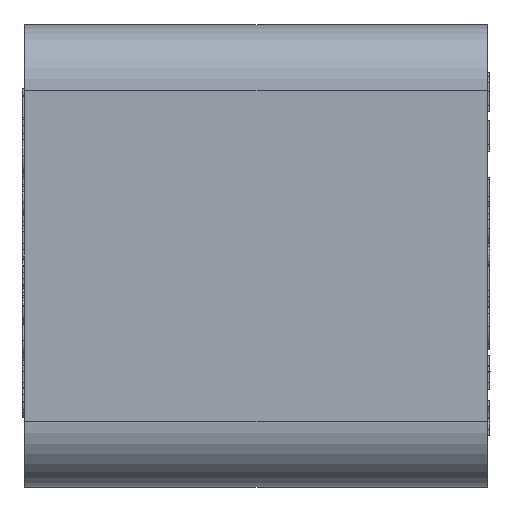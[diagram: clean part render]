
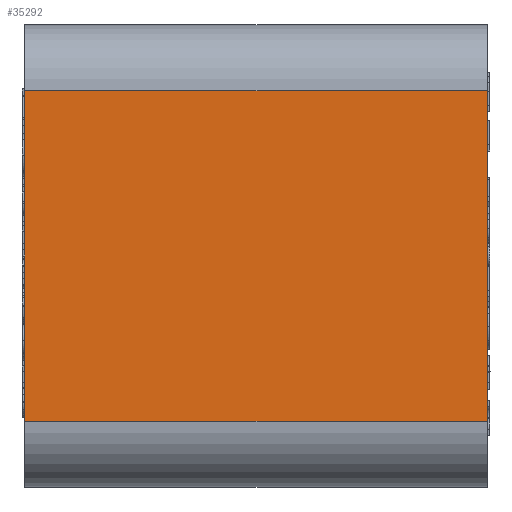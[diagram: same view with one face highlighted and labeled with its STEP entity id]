
A CAD part, left-side view. The second image highlights one B-rep face of the part: STEP entity #35292.
In plain terms, the highlighted planar face has unit normal (-1, 0, 0).
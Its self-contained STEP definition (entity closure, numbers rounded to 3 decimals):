
#534 = DIRECTION ( 'NONE',  ( 1., 0., 0. ) ) ;
#1511 = FACE_OUTER_BOUND ( 'NONE', #36111, .T. ) ;
#2005 = DIRECTION ( 'NONE',  ( 0., 1., 0. ) ) ;
#3853 = CARTESIAN_POINT ( 'NONE',  ( -110., 17.5, 17.5 ) ) ;
#5049 = CARTESIAN_POINT ( 'NONE',  ( -110., 17.5, 17.5 ) ) ;
#5324 = CARTESIAN_POINT ( 'NONE',  ( -110., -17.5, 17.5 ) ) ;
#6766 = DIRECTION ( 'NONE',  ( 0., 0., -1. ) ) ;
#7177 = CARTESIAN_POINT ( 'NONE',  ( -110., -17.5, 12.5 ) ) ;
#7608 = CARTESIAN_POINT ( 'NONE',  ( -110., 17.5, 12.5 ) ) ;
#8426 = LINE ( 'NONE', #5324, #20835 ) ;
#9447 = EDGE_CURVE ( 'NONE', #33394, #19765, #13878, .T. ) ;
#11314 = EDGE_CURVE ( 'NONE', #19765, #28754, #17419, .T. ) ;
#12764 = DIRECTION ( 'NONE',  ( 0., -1., 0. ) ) ;
#13204 = ORIENTED_EDGE ( 'NONE', *, *, #18046, .F. ) ;
#13878 = LINE ( 'NONE', #7608, #14332 ) ;
#14332 = VECTOR ( 'NONE', #2005, 1000. ) ;
#14410 = DIRECTION ( 'NONE',  ( 0., 0., -1. ) ) ;
#17419 = LINE ( 'NONE', #5049, #25145 ) ;
#18046 = EDGE_CURVE ( 'NONE', #33394, #37889, #8426, .T. ) ;
#19765 = VERTEX_POINT ( 'NONE', #23226 ) ;
#20835 = VECTOR ( 'NONE', #14410, 1000. ) ;
#21703 = AXIS2_PLACEMENT_3D ( 'NONE', #3853, #534, #6766 ) ;
#22884 = ORIENTED_EDGE ( 'NONE', *, *, #11314, .T. ) ;
#23226 = CARTESIAN_POINT ( 'NONE',  ( -110., 17.5, 12.5 ) ) ;
#23254 = PLANE ( 'NONE',  #21703 ) ;
#25145 = VECTOR ( 'NONE', #25462, 1000. ) ;
#25462 = DIRECTION ( 'NONE',  ( 0., 0., -1. ) ) ;
#26716 = CARTESIAN_POINT ( 'NONE',  ( -110., -17.5, -12.5 ) ) ;
#27326 = CARTESIAN_POINT ( 'NONE',  ( -110., 17.5, -12.5 ) ) ;
#27471 = EDGE_CURVE ( 'NONE', #28754, #37889, #30360, .T. ) ;
#28754 = VERTEX_POINT ( 'NONE', #33171 ) ;
#30360 = LINE ( 'NONE', #27326, #36306 ) ;
#32641 = ORIENTED_EDGE ( 'NONE', *, *, #9447, .T. ) ;
#33171 = CARTESIAN_POINT ( 'NONE',  ( -110., 17.5, -12.5 ) ) ;
#33394 = VERTEX_POINT ( 'NONE', #7177 ) ;
#35292 = ADVANCED_FACE ( 'NONE', ( #1511 ), #23254, .F. ) ;
#36111 = EDGE_LOOP ( 'NONE', ( #22884, #36189, #13204, #32641 ) ) ;
#36189 = ORIENTED_EDGE ( 'NONE', *, *, #27471, .T. ) ;
#36306 = VECTOR ( 'NONE', #12764, 1000. ) ;
#37889 = VERTEX_POINT ( 'NONE', #26716 ) ;
